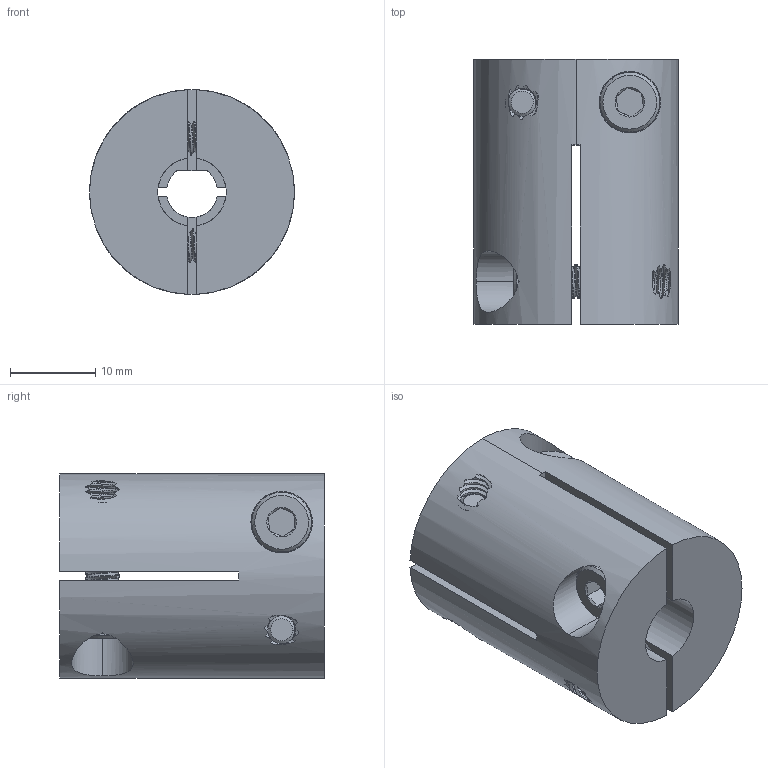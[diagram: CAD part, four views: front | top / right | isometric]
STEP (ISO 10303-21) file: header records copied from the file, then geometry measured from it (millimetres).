
FILE_DESCRIPTION (( 'STEP AP203' ), '1' );
FILE_NAME ('4006-0008-1006 assembly.STEP', '2019-01-22T17:39:41', ( '' ), ( '' ), 'SwSTEP 2.0', 'SolidWorks 2016', '' );
FILE_SCHEMA (( 'CONFIG_CONTROL_DESIGN' ));
Products named in the file (3): 2800-0004-0012_90128A207; 4006-0008-1006 assembly; 4006-0008-1006
Assembly tree (5 placements, depth 2):
  4006-0008-1006 assembly
    4006-0008-1006
    2800-0004-0012_90128A207  x4
Bounding box: 24 x 31 x 24 mm (x, y, z)
Volume: 11476.1 mm3; surface area: 7943 mm2
Topology: 5 solids, 5 shells, 694 faces, 1954 edges, 1280 vertices
Faces by surface type: cylinder 539, plane 65, cone 52, bspline 38
Entity records: 50529 total; most frequent: CARTESIAN_POINT 41482, ORIENTED_EDGE 2354, DIRECTION 1304, EDGE_CURVE 1177, VERTEX_POINT 779, AXIS2_PLACEMENT_3D 470, EDGE_LOOP 428, ADVANCED_FACE 406
